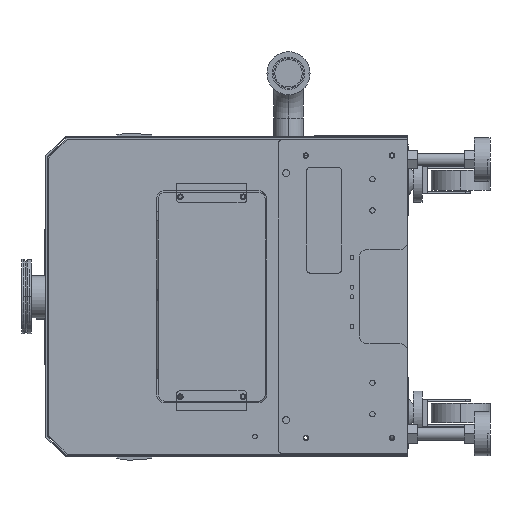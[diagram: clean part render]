
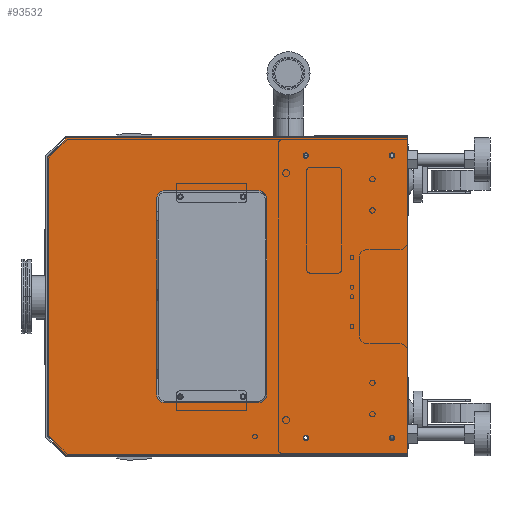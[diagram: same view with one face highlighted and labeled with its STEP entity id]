
A CAD part, left-side view. The second image highlights one B-rep face of the part: STEP entity #93532.
In plain terms, the highlighted planar face has unit normal (-1, 0, 0).
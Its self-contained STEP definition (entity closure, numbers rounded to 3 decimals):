
#91109=DIRECTION('',(0.,0.,-1.));
#91110=VECTOR('',#91109,405.);
#91111=CARTESIAN_POINT('',(-447.,0.,2.5));
#91112=LINE('',#91111,#91110);
#91117=DIRECTION('',(0.,1.,0.));
#91118=VECTOR('',#91117,435.);
#91119=CARTESIAN_POINT('',(-447.,0.,-402.5));
#91120=LINE('',#91119,#91118);
#91155=DIRECTION('',(0.,0.707,-0.707));
#91156=VECTOR('',#91155,35.355);
#91157=CARTESIAN_POINT('',(-447.,435.,2.5));
#91158=LINE('',#91157,#91156);
#91159=DIRECTION('',(0.,-0.707,-0.707));
#91160=VECTOR('',#91159,35.355);
#91161=CARTESIAN_POINT('',(-447.,460.,-377.5));
#91162=LINE('',#91161,#91160);
#91163=DIRECTION('',(0.,1.,0.));
#91164=VECTOR('',#91163,120.);
#91165=CARTESIAN_POINT('',(-447.,190.,-335.));
#91166=LINE('',#91165,#91164);
#91167=CARTESIAN_POINT('',(-447.,190.,-325.));
#91168=DIRECTION('',(1.,0.,0.));
#91169=DIRECTION('',(0.,-1.,0.));
#91170=AXIS2_PLACEMENT_3D('',#91167,#91168,#91169);
#91172=DIRECTION('',(0.,0.,-1.));
#91173=VECTOR('',#91172,250.);
#91174=CARTESIAN_POINT('',(-447.,180.,-75.));
#91175=LINE('',#91174,#91173);
#91176=CARTESIAN_POINT('',(-447.,190.,-75.));
#91177=DIRECTION('',(1.,0.,0.));
#91178=DIRECTION('',(0.,0.,1.));
#91179=AXIS2_PLACEMENT_3D('',#91176,#91177,#91178);
#91181=DIRECTION('',(0.,-1.,0.));
#91182=VECTOR('',#91181,120.);
#91183=CARTESIAN_POINT('',(-447.,310.,-65.));
#91184=LINE('',#91183,#91182);
#91185=CARTESIAN_POINT('',(-447.,310.,-75.));
#91186=DIRECTION('',(1.,0.,0.));
#91187=DIRECTION('',(0.,1.,0.));
#91188=AXIS2_PLACEMENT_3D('',#91185,#91186,#91187);
#91190=DIRECTION('',(0.,0.,1.));
#91191=VECTOR('',#91190,250.);
#91192=CARTESIAN_POINT('',(-447.,320.,-325.));
#91193=LINE('',#91192,#91191);
#91194=CARTESIAN_POINT('',(-447.,310.,-325.));
#91195=DIRECTION('',(1.,0.,0.));
#91196=DIRECTION('',(0.,0.,-1.));
#91197=AXIS2_PLACEMENT_3D('',#91194,#91195,#91196);
#91199=CARTESIAN_POINT('',(-447.,20.,-20.));
#91200=DIRECTION('',(1.,0.,0.));
#91201=DIRECTION('',(0.,0.,-1.));
#91202=AXIS2_PLACEMENT_3D('',#91199,#91200,#91201);
#91204=CARTESIAN_POINT('',(-447.,20.,-20.));
#91205=DIRECTION('',(1.,0.,0.));
#91206=DIRECTION('',(0.,0.,1.));
#91207=AXIS2_PLACEMENT_3D('',#91204,#91205,#91206);
#91209=CARTESIAN_POINT('',(-447.,20.,-380.));
#91210=DIRECTION('',(1.,0.,0.));
#91211=DIRECTION('',(0.,0.,-1.));
#91212=AXIS2_PLACEMENT_3D('',#91209,#91210,#91211);
#91214=CARTESIAN_POINT('',(-447.,20.,-380.));
#91215=DIRECTION('',(1.,0.,0.));
#91216=DIRECTION('',(0.,0.,1.));
#91217=AXIS2_PLACEMENT_3D('',#91214,#91215,#91216);
#91219=CARTESIAN_POINT('',(-447.,130.,-380.));
#91220=DIRECTION('',(1.,0.,0.));
#91221=DIRECTION('',(0.,0.,-1.));
#91222=AXIS2_PLACEMENT_3D('',#91219,#91220,#91221);
#91224=CARTESIAN_POINT('',(-447.,130.,-380.));
#91225=DIRECTION('',(1.,0.,0.));
#91226=DIRECTION('',(0.,0.,1.));
#91227=AXIS2_PLACEMENT_3D('',#91224,#91225,#91226);
#91229=CARTESIAN_POINT('',(-447.,130.,-20.));
#91230=DIRECTION('',(1.,0.,0.));
#91231=DIRECTION('',(0.,0.,-1.));
#91232=AXIS2_PLACEMENT_3D('',#91229,#91230,#91231);
#91234=CARTESIAN_POINT('',(-447.,130.,-20.));
#91235=DIRECTION('',(1.,0.,0.));
#91236=DIRECTION('',(0.,0.,1.));
#91237=AXIS2_PLACEMENT_3D('',#91234,#91235,#91236);
#91239=DIRECTION('',(0.,0.,1.));
#91240=VECTOR('',#91239,355.);
#91241=CARTESIAN_POINT('',(-447.,460.,-377.5));
#91242=LINE('',#91241,#91240);
#91271=DIRECTION('',(0.,-1.,0.));
#91272=VECTOR('',#91271,435.);
#91273=CARTESIAN_POINT('',(-447.,435.,2.5));
#91274=LINE('',#91273,#91272);
#92510=CARTESIAN_POINT('',(-447.,320.,-75.));
#92511=CARTESIAN_POINT('',(-447.,310.,-65.));
#92512=VERTEX_POINT('',#92510);
#92513=VERTEX_POINT('',#92511);
#92518=CARTESIAN_POINT('',(-447.,20.,-23.5));
#92520=VERTEX_POINT('',#92518);
#92522=CARTESIAN_POINT('',(-447.,130.,-16.5));
#92524=VERTEX_POINT('',#92522);
#92604=CARTESIAN_POINT('',(-447.,190.,-65.));
#92605=CARTESIAN_POINT('',(-447.,180.,-75.));
#92606=VERTEX_POINT('',#92604);
#92607=VERTEX_POINT('',#92605);
#92632=CARTESIAN_POINT('',(-447.,320.,-325.));
#92633=VERTEX_POINT('',#92632);
#92637=CARTESIAN_POINT('',(-447.,435.,-402.5));
#92639=VERTEX_POINT('',#92637);
#92652=CARTESIAN_POINT('',(-447.,130.,-376.5));
#92653=CARTESIAN_POINT('',(-447.,130.,-383.5));
#92654=VERTEX_POINT('',#92652);
#92655=VERTEX_POINT('',#92653);
#92698=CARTESIAN_POINT('',(-447.,180.,-325.));
#92699=VERTEX_POINT('',#92698);
#92700=CARTESIAN_POINT('',(-447.,0.,2.5));
#92701=CARTESIAN_POINT('',(-447.,0.,-402.5));
#92702=VERTEX_POINT('',#92700);
#92703=VERTEX_POINT('',#92701);
#92728=CARTESIAN_POINT('',(-447.,190.,-335.));
#92729=CARTESIAN_POINT('',(-447.,310.,-335.));
#92730=VERTEX_POINT('',#92728);
#92731=VERTEX_POINT('',#92729);
#92752=CARTESIAN_POINT('',(-447.,130.,-23.5));
#92753=VERTEX_POINT('',#92752);
#92806=CARTESIAN_POINT('',(-447.,20.,-16.5));
#92807=VERTEX_POINT('',#92806);
#92810=CARTESIAN_POINT('',(-447.,435.,2.5));
#92811=CARTESIAN_POINT('',(-447.,460.,-22.5));
#92812=VERTEX_POINT('',#92810);
#92813=VERTEX_POINT('',#92811);
#92822=CARTESIAN_POINT('',(-447.,460.,-377.5));
#92823=VERTEX_POINT('',#92822);
#92834=CARTESIAN_POINT('',(-447.,20.,-376.5));
#92835=CARTESIAN_POINT('',(-447.,20.,-383.5));
#92836=VERTEX_POINT('',#92834);
#92837=VERTEX_POINT('',#92835);
#93473=CARTESIAN_POINT('',(-447.,460.,-402.5));
#93474=DIRECTION('',(1.,0.,0.));
#93475=DIRECTION('',(0.,0.,-1.));
#93476=AXIS2_PLACEMENT_3D('',#93473,#93474,#93475);
#93477=PLANE('',#93476);
#93479=ORIENTED_EDGE('',*,*,#93478,.T.);
#93481=ORIENTED_EDGE('',*,*,#93480,.F.);
#93483=ORIENTED_EDGE('',*,*,#93482,.T.);
#93484=ORIENTED_EDGE('',*,*,#93417,.T.);
#93485=ORIENTED_EDGE('',*,*,#93439,.T.);
#93487=ORIENTED_EDGE('',*,*,#93486,.F.);
#93488=EDGE_LOOP('',(#93479,#93481,#93483,#93484,#93485,#93487));
#93489=FACE_OUTER_BOUND('',#93488,.F.);
#93491=ORIENTED_EDGE('',*,*,#93490,.F.);
#93493=ORIENTED_EDGE('',*,*,#93492,.F.);
#93495=ORIENTED_EDGE('',*,*,#93494,.F.);
#93497=ORIENTED_EDGE('',*,*,#93496,.F.);
#93499=ORIENTED_EDGE('',*,*,#93498,.F.);
#93501=ORIENTED_EDGE('',*,*,#93500,.F.);
#93503=ORIENTED_EDGE('',*,*,#93502,.F.);
#93505=ORIENTED_EDGE('',*,*,#93504,.F.);
#93506=EDGE_LOOP('',(#93491,#93493,#93495,#93497,#93499,#93501,#93503,#93505));
#93507=FACE_BOUND('',#93506,.F.);
#93509=ORIENTED_EDGE('',*,*,#93508,.F.);
#93511=ORIENTED_EDGE('',*,*,#93510,.F.);
#93512=EDGE_LOOP('',(#93509,#93511));
#93513=FACE_BOUND('',#93512,.F.);
#93515=ORIENTED_EDGE('',*,*,#93514,.F.);
#93517=ORIENTED_EDGE('',*,*,#93516,.F.);
#93518=EDGE_LOOP('',(#93515,#93517));
#93519=FACE_BOUND('',#93518,.F.);
#93521=ORIENTED_EDGE('',*,*,#93520,.F.);
#93523=ORIENTED_EDGE('',*,*,#93522,.F.);
#93524=EDGE_LOOP('',(#93521,#93523));
#93525=FACE_BOUND('',#93524,.F.);
#93527=ORIENTED_EDGE('',*,*,#93526,.F.);
#93529=ORIENTED_EDGE('',*,*,#93528,.F.);
#93530=EDGE_LOOP('',(#93527,#93529));
#93531=FACE_BOUND('',#93530,.F.);
#91171=CIRCLE('',#91170,10.);
#91180=CIRCLE('',#91179,10.);
#91189=CIRCLE('',#91188,10.);
#91198=CIRCLE('',#91197,10.);
#91203=CIRCLE('',#91202,3.5);
#91208=CIRCLE('',#91207,3.5);
#91213=CIRCLE('',#91212,3.5);
#91218=CIRCLE('',#91217,3.5);
#91223=CIRCLE('',#91222,3.5);
#91228=CIRCLE('',#91227,3.5);
#91233=CIRCLE('',#91232,3.5);
#91238=CIRCLE('',#91237,3.5);
#93417=EDGE_CURVE('',#92702,#92703,#91112,.T.);
#93439=EDGE_CURVE('',#92703,#92639,#91120,.T.);
#93478=EDGE_CURVE('',#92823,#92813,#91242,.T.);
#93480=EDGE_CURVE('',#92812,#92813,#91158,.T.);
#93482=EDGE_CURVE('',#92812,#92702,#91274,.T.);
#93486=EDGE_CURVE('',#92823,#92639,#91162,.T.);
#93490=EDGE_CURVE('',#92730,#92731,#91166,.T.);
#93492=EDGE_CURVE('',#92699,#92730,#91171,.T.);
#93494=EDGE_CURVE('',#92607,#92699,#91175,.T.);
#93496=EDGE_CURVE('',#92606,#92607,#91180,.T.);
#93498=EDGE_CURVE('',#92513,#92606,#91184,.T.);
#93500=EDGE_CURVE('',#92512,#92513,#91189,.T.);
#93502=EDGE_CURVE('',#92633,#92512,#91193,.T.);
#93504=EDGE_CURVE('',#92731,#92633,#91198,.T.);
#93508=EDGE_CURVE('',#92520,#92807,#91203,.T.);
#93510=EDGE_CURVE('',#92807,#92520,#91208,.T.);
#93514=EDGE_CURVE('',#92837,#92836,#91213,.T.);
#93516=EDGE_CURVE('',#92836,#92837,#91218,.T.);
#93520=EDGE_CURVE('',#92655,#92654,#91223,.T.);
#93522=EDGE_CURVE('',#92654,#92655,#91228,.T.);
#93526=EDGE_CURVE('',#92753,#92524,#91233,.T.);
#93528=EDGE_CURVE('',#92524,#92753,#91238,.T.);
#93532=ADVANCED_FACE('',(#93489,#93507,#93513,#93519,#93525,#93531),#93477,.F.);
